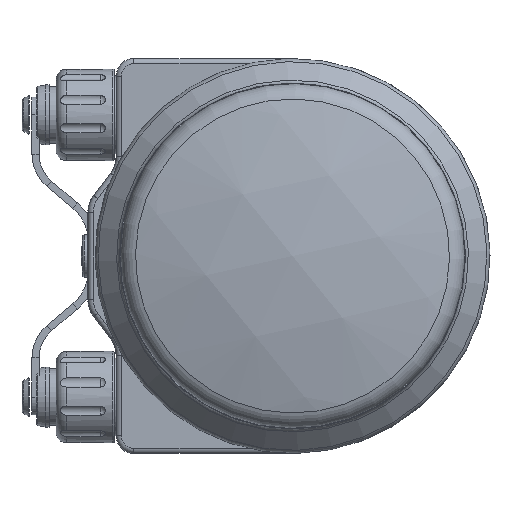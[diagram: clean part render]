
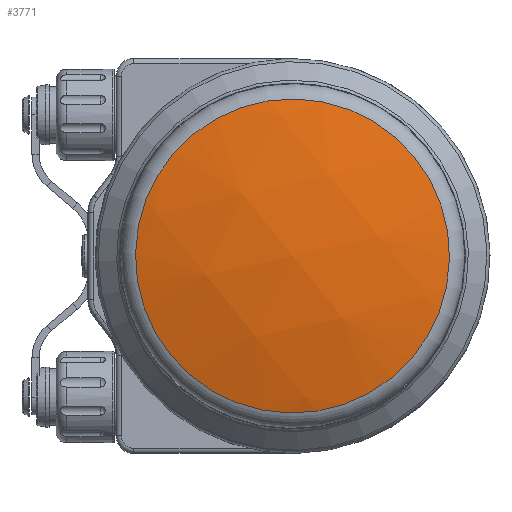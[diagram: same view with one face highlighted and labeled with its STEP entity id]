
A CAD part, front view. The second image highlights one B-rep face of the part: STEP entity #3771.
In plain terms, the highlighted spherical face has radius 80 mm.
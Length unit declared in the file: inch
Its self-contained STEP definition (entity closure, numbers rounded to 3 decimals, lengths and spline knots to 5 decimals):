
#190 = DIRECTION ( 'NONE',  ( 0., 1., 0. ) ) ;
#306 = CIRCLE ( 'NONE', #5802, 0.87637 ) ;
#1667 = DIRECTION ( 'NONE',  ( 0.778, 0., 0.629 ) ) ;
#1819 = VERTEX_POINT ( 'NONE', #9653 ) ;
#3771 = ADVANCED_FACE ( 'NONE', ( #9434 ), #5955, .T. ) ;
#4892 = CARTESIAN_POINT ( 'NONE',  ( -3.36525, -2.85987, -0.00834 ) ) ;
#5091 = ORIENTED_EDGE ( 'NONE', *, *, #9558, .F. ) ;
#5696 = DIRECTION ( 'NONE',  ( -0.778, 0., -0.629 ) ) ;
#5802 = AXIS2_PLACEMENT_3D ( 'NONE', #4892, #190, #5696 ) ;
#5955 = SPHERICAL_SURFACE ( 'NONE', #9970, 3.14961 ) ;
#7160 = DIRECTION ( 'NONE',  ( -0.629, 0., 0.778 ) ) ;
#7430 = EDGE_LOOP ( 'NONE', ( #5091 ) ) ;
#9434 = FACE_OUTER_BOUND ( 'NONE', #7430, .T. ) ;
#9530 = CARTESIAN_POINT ( 'NONE',  ( -3.36525, 0.16535, -0.00834 ) ) ;
#9558 = EDGE_CURVE ( 'NONE', #1819, #1819, #306, .T. ) ;
#9653 = CARTESIAN_POINT ( 'NONE',  ( -4.04671, -2.85987, -0.55936 ) ) ;
#9970 = AXIS2_PLACEMENT_3D ( 'NONE', #9530, #1667, #7160 ) ;
